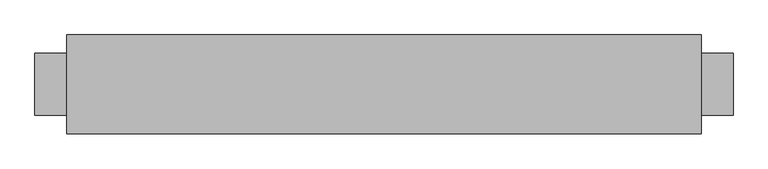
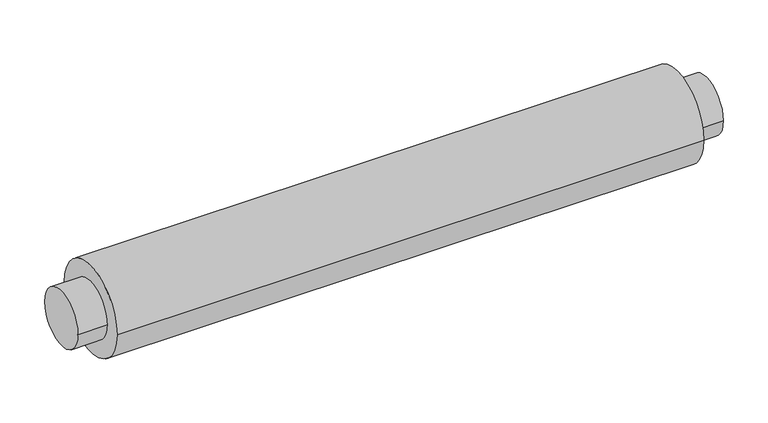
"""IFC4 building model written with IfcOpenShell, lengths in millimetres: damper geometry, VE-Tłumik_Akustyczny-ParaForma-Harmann-FLEXITEC : 100-1000."""

from ifc_helpers import new_model, si_unit, point, frame, origin, origin_2d, place, context, project, spatial, circle_curve, trimmed, segment, composite_curve, outline, extrude, source, transform, mapped, element, save


def damper_e27ed887(model_context):
    return source(origin(), model_context, "Body", "SweptSolid", [
        extrude(outline(composite_curve([segment(trimmed(circle_curve(origin_2d(), 49.0), [point((-49.0, 0.0))], [point((49.0, 0.0))], False, "CARTESIAN"), True, "CONTINUOUS"), segment(trimmed(circle_curve(origin_2d(), 49.0), [point((49.0, 0.0))], [point((-49.0, 0.0))], False, "CARTESIAN"), True, "CONTINUOUS")], self_intersect=False)), frame((500.0, 0.0, 0.0), z_axis=(1.0, 0.0, 0.0), x_axis=(0.0, 1.0, 0.0)), (0.0, 0.0, 1.0), 50.0),
        extrude(outline(composite_curve([segment(trimmed(circle_curve(origin_2d(), 49.0), [point((-49.0, 0.0))], [point((49.0, 0.0))], False, "CARTESIAN"), True, "CONTINUOUS"), segment(trimmed(circle_curve(origin_2d(), 49.0), [point((49.0, 0.0))], [point((-49.0, 0.0))], False, "CARTESIAN"), True, "CONTINUOUS")], self_intersect=False)), frame((-550.0, 0.0, 0.0), z_axis=(1.0, 0.0, 0.0), x_axis=(0.0, 1.0, 0.0)), (0.0, 0.0, 1.0), 50.0),
        extrude(outline(composite_curve([segment(trimmed(circle_curve(origin_2d(), 77.95), [point((-77.95, 0.0))], [point((77.95, 0.0))], False, "CARTESIAN"), True, "CONTINUOUS"), segment(trimmed(circle_curve(origin_2d(), 77.95), [point((77.95, 0.0))], [point((-77.95, 0.0))], False, "CARTESIAN"), True, "CONTINUOUS")], self_intersect=False)), frame((-500.0, 0.0, 0.0), z_axis=(1.0, 0.0, 0.0), x_axis=(0.0, 1.0, 0.0)), (0.0, 0.0, 1.0), 1000.0),
    ])


if __name__ == "__main__":
    model = new_model("IFC4")
    model_context = context("Model", 3, world=origin())
    ifc_project = project(units=[si_unit("LENGTHUNIT", "METRE", prefix="MILLI")], contexts=[model_context])
    site = spatial("IfcSite", under=ifc_project)
    building = spatial("IfcBuilding", under=site)
    placement = place(None, origin())
    damper_shape = damper_e27ed887(model_context)
    element("IfcDamper", 1, ObjectType="VE-Tłumik_Akustyczny-ParaForma-Harmann-FLEXITEC : 100-1000", at=placement, inside=building, context=model_context, shape_type="MappedRepresentation", body=[
        mapped(damper_shape, transform((0.0, 0.0, 0.0), x_axis=(1.0, 0.0, 0.0), y_axis=(0.0, 1.0, 0.0), z_axis=(0.0, 0.0, 1.0))),
    ])
    save(model, "model.ifc")
